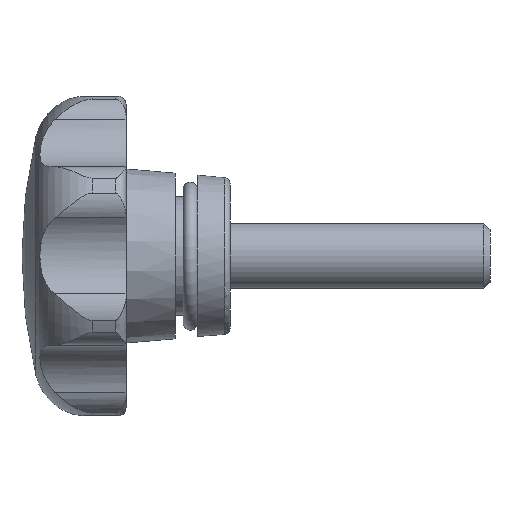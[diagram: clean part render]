
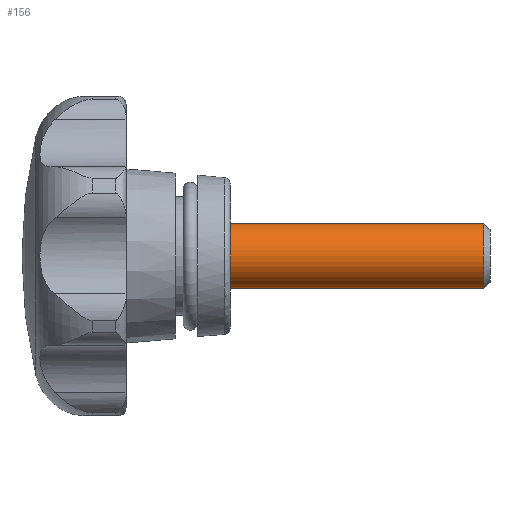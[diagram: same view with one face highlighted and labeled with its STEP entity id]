
A CAD part, left-side view. The second image highlights one B-rep face of the part: STEP entity #156.
In plain terms, the highlighted cylindrical face has radius 2.5 mm (diameter 5 mm), a full revolution.
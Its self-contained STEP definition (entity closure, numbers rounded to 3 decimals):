
#156 = ADVANCED_FACE( '', ( #362, #363 ), #364, .T. );
#362 = FACE_OUTER_BOUND( '', #591, .T. );
#363 = FACE_OUTER_BOUND( '', #592, .T. );
#364 = CYLINDRICAL_SURFACE( '', #593, 2.5 );
#591 = EDGE_LOOP( '', ( #1295 ) );
#592 = EDGE_LOOP( '', ( #1296 ) );
#593 = AXIS2_PLACEMENT_3D( '', #1297, #1298, #1299 );
#1295 = ORIENTED_EDGE( '', *, *, #1637, .F. );
#1296 = ORIENTED_EDGE( '', *, *, #1633, .T. );
#1297 = CARTESIAN_POINT( '', ( 0., -20., 0. ) );
#1298 = DIRECTION( '', ( 0., 1., 0. ) );
#1299 = DIRECTION( '', ( 0., 0., -1. ) );
#1633 = EDGE_CURVE( '', #2034, #2034, #2035, .T. );
#1637 = EDGE_CURVE( '', #2039, #2039, #2040, .T. );
#2034 = VERTEX_POINT( '', #3284 );
#2035 = CIRCLE( '', #3285, 2.5 );
#2039 = VERTEX_POINT( '', #3292 );
#2040 = CIRCLE( '', #3293, 2.5 );
#3284 = CARTESIAN_POINT( '', ( 0., 0., -2.5 ) );
#3285 = AXIS2_PLACEMENT_3D( '', #3673, #3674, #3675 );
#3292 = CARTESIAN_POINT( '', ( 0., -19.51, -2.5 ) );
#3293 = AXIS2_PLACEMENT_3D( '', #3679, #3680, #3681 );
#3673 = CARTESIAN_POINT( '', ( 0., 0., 0. ) );
#3674 = DIRECTION( '', ( 0., -1., 0. ) );
#3675 = DIRECTION( '', ( 0., 0., -1. ) );
#3679 = CARTESIAN_POINT( '', ( 0., -19.51, 0. ) );
#3680 = DIRECTION( '', ( 0., -1., 0. ) );
#3681 = DIRECTION( '', ( 0., 0., -1. ) );
